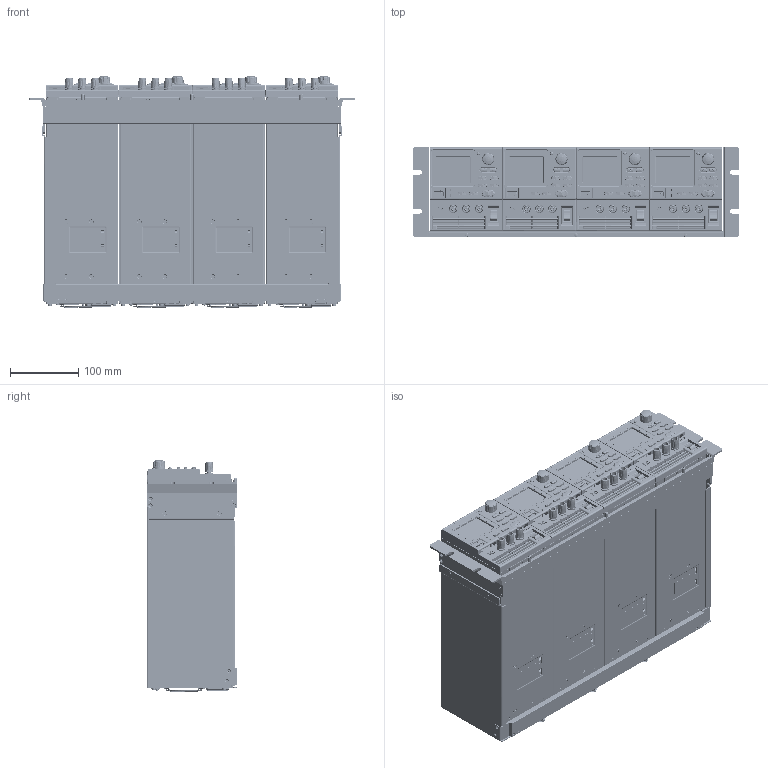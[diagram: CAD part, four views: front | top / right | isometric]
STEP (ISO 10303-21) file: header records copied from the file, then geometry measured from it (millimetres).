
FILE_DESCRIPTION((''),'2;1');
FILE_NAME('PPX-RACK-GRA-441-EIA_ASM','2020-08-27T11:30:15',('benny_chen'),(''),'CREO PARAMETRIC BY PTC INC, 2019080','CREO PARAMETRIC BY PTC INC, 2019080','');
FILE_SCHEMA(('CONFIG_CONTROL_DESIGN'));
Products named in the file (93): 62RA-410HP101; 62RA-410HP2A1; 62RA-410HP3A1; 62RA-410HPAA1; PPX-62RA-410HP5B1; 62RA-410HP5B1-HP; PPX-RACK-RIGHT_ASM; PPX-62RA-410HP4A1; 62RA-410HP4A1-HP; PPX-RACK-LEFT_ASM; FMS-3X8; 59CA-04017NS1; PPX-F-HP-ASM_SKEL0001; 62PX-363FP101; BSO-M3-15; SO-M3-4; 62PX-363FP101_ASM; PPX-LCD-GFTO024KA240320; 62PX-363HP101; 57RG-30B03401; 57RG-30B03501; PPX-LCD_ASM_ASM; PPX-DINKLE_142V-02P; PPX-DINKLE_142V-02P-PCB-1_ASM; PMS-W-3X6; PPX-F-HP-ASM_ASM; PPX_FRAME-A; INSERT-CU; 63FP-AG114901_ASM; PFR-100-SW-POWER; 57RB-40G16201; PPX_MODEL_NP-A; 5005-180G020; PPX_BINDING_NP-A1; 4702-03500301; PPX_FRONT_ASM-A_ASM; BODY; SHIFT; KNOB; INSERT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
Assembly tree (343 placements, depth 6):
  PPX-RACK-GRA-441-EIA_ASM
    62RA-410HP101
    62RA-410HP2A1
    62RA-410HP3A1
    62RA-410HPAA1  x2
    PPX-RACK-RIGHT_ASM
      PPX-62RA-410HP5B1
      62RA-410HP5B1-HP
    PPX-RACK-LEFT_ASM
      PPX-62RA-410HP4A1
      62RA-410HP4A1-HP
    FMS-3X8  x4
    59CA-04017NS1  x3
    PPX_AF0_ASM
      PPX-FRONT-ASM_ASM
        PPX-F-HP-ASM_ASM
          PPX-F-HP-ASM_SKEL0001
          62PX-363FP101_ASM
            62PX-363FP101
            BSO-M3-15  x4
            SO-M3-4  x4
          PPX-LCD_ASM_ASM
            PPX-LCD-GFTO024KA240320
            62PX-363HP101
            57RG-30B03401  x2
            57RG-30B03501  x2
          PPX-DINKLE_142V-02P-PCB-1_ASM
            PPX-DINKLE_142V-02P
          PMS-W-3X6  x4
        PPX_FRONT_ASM-A_ASM
          63FP-AG114901_ASM
            PPX_FRAME-A
            INSERT-CU  x6
          PFR-100-SW-POWER
          57RB-40G16201
          PPX_MODEL_NP-A
          5005-180G020
          PPX_BINDING_NP-A1
          4702-03500301  x4
        BINDING_ASM  x3
          BODY
          SHIFT
          KNOB_ASM
            KNOB
            INSERT
        WASHER-FLAT-4MM  x3
        NUT-M4  x3
        A_BINDING_COLOR
      62PX-363LO101_ASM
        62PX-363LO101
        S-M3-1_NUT  x4
        FH-M4-10  x5
        BSO-M3-14  x2
      PPX-HP-UP-ASM_ASM
        62PX-363UP101_ASM
          62PX-363UP101
      PPX-HS-MODULE_ASM
        PPX-PCB-MCU_ASM
          NELTRON-2316R-20G-BOX-HEADER
        PPX-PCB-CPU_ASM
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Bounding box: 477.6 x 132 x 339.85 mm (x, y, z)
Volume: 1626238.2 mm3; surface area: 2280591 mm2
Topology: 552 solids, 588 shells, 36088 faces, 92755 edges, 59325 vertices
Faces by surface type: plane 18630, cylinder 11700, cone 2926, bspline 1704, torus 766, sphere 234, extrusion 128
Entity records: 280839 total; most frequent: CARTESIAN_POINT 88658, DIRECTION 39812, ORIENTED_EDGE 39208, EDGE_CURVE 19606, AXIS2_PLACEMENT_3D 13902, VERTEX_POINT 12511, VECTOR 12008, LINE 11976
